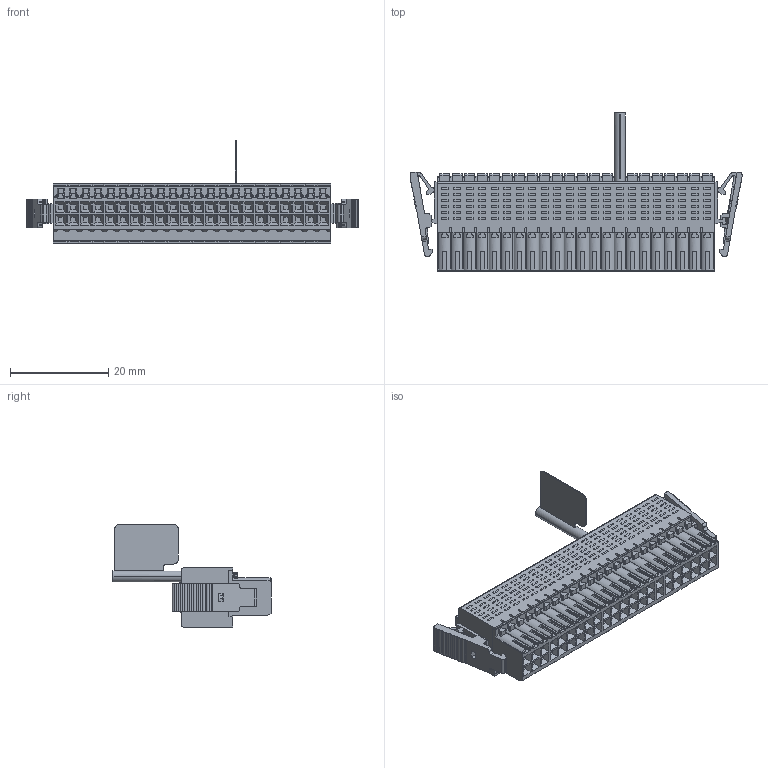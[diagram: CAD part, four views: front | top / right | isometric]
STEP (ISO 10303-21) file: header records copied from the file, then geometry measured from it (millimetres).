
FILE_DESCRIPTION((''),'2;1');
FILE_NAME('ASM0001_SW0001','2023-02-17T',('Yapeng.Liu'),(''),'CREO PARAMETRIC BY PTC INC, 2015480','CREO PARAMETRIC BY PTC INC, 2015480','');
FILE_SCHEMA(('CONFIG_CONTROL_DESIGN'));
Products named in the file (1): ASM0001_SW0001
Bounding box: 67.44 x 32.1 x 20.87 mm (x, y, z)
Volume: 10130.2 mm3; surface area: 7823.1 mm2
Topology: 1 solids, 89 shells, 6141 faces, 16634 edges, 11007 vertices
Faces by surface type: plane 3936, cylinder 1346, torus 593, bspline 264, cone 2
Entity records: 217980 total; most frequent: CARTESIAN_POINT 63709, ORIENTED_EDGE 33092, DIRECTION 30062, EDGE_CURVE 16546, VECTOR 12252, LINE 12252, VERTEX_POINT 11007, AXIS2_PLACEMENT_3D 8905
